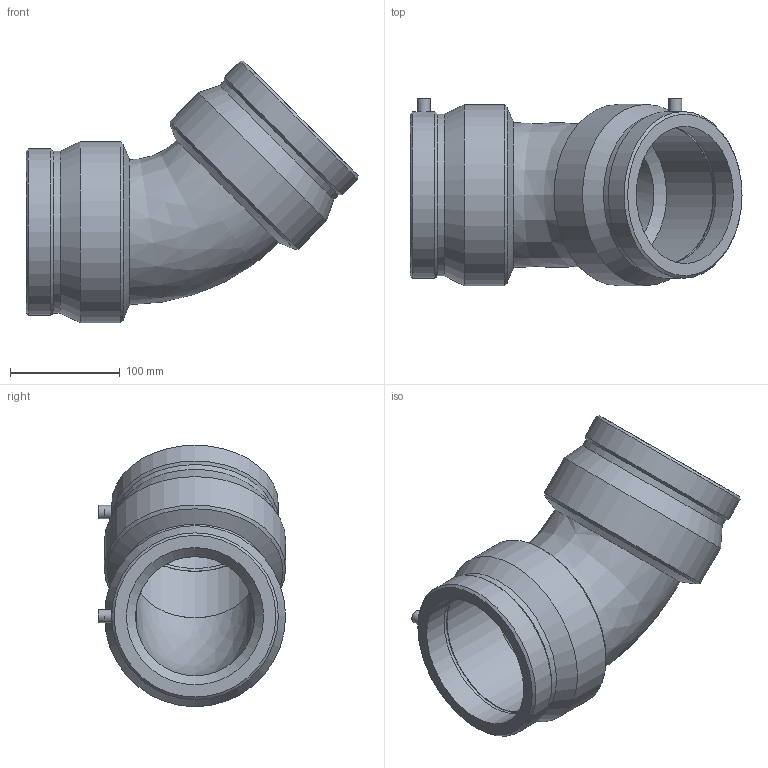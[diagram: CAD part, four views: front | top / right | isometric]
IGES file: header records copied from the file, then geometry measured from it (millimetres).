
Global section: file name: 490604125.ipt; native system: Autodesk Inventor 2015; preprocessor: unknown; author: KIM; date: 20171106.093655; units: millimetre
Bounding box: 302.39 x 170.5 x 238.25 mm (x, y, z)
Volume: 1824907.8 mm3; surface area: 269388.5 mm2
Topology: 1 solids, 1 shells, 42 faces, 98 edges, 64 vertices
Faces by surface type: revolution 12, cone 10, cylinder 10, plane 10
Full cylindrical faces by diameter (mm): 4.8 x2, 12 x2, 147.246 x2, 151.8 x2, 165 x2
